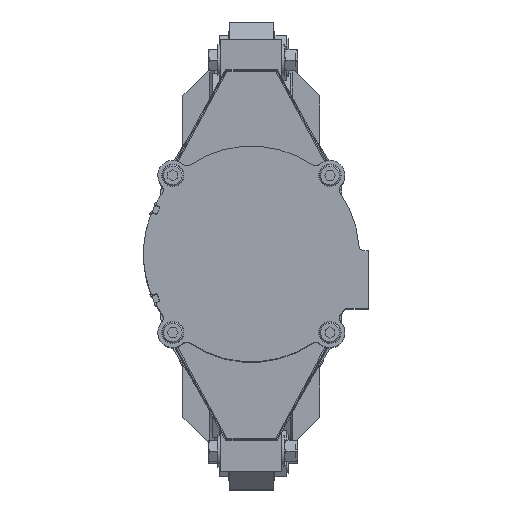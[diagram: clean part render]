
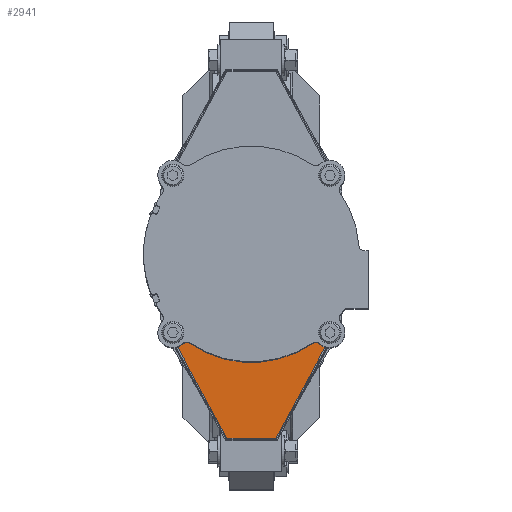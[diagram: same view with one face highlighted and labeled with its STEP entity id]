
A CAD part, top view. The second image highlights one B-rep face of the part: STEP entity #2941.
In plain terms, the highlighted planar face has unit normal (0, 0, 1).
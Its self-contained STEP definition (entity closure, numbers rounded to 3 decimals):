
#2941=ADVANCED_FACE('',(#9245),#9246,.F.);
#9245=FACE_OUTER_BOUND('',#16655,.T.);
#9246=PLANE('',#16656);
#16655=EDGE_LOOP('',(#38472,#38473,#38474,#38475,#38476,#38477));
#16656=AXIS2_PLACEMENT_3D('',#38478,#38479,#38480);
#38472=ORIENTED_EDGE('',*,*,#51636,.T.);
#38473=ORIENTED_EDGE('',*,*,#51640,.T.);
#38474=ORIENTED_EDGE('',*,*,#51641,.T.);
#38475=ORIENTED_EDGE('',*,*,#51642,.T.);
#38476=ORIENTED_EDGE('',*,*,#51643,.T.);
#38477=ORIENTED_EDGE('',*,*,#51644,.F.);
#38478=CARTESIAN_POINT('',(43.697,-106.973,600.75));
#38479=DIRECTION('',(0.,0.,-1.));
#38480=DIRECTION('',(0.,1.,0.));
#51636=EDGE_CURVE('',#63812,#63813,#63814,.T.);
#51640=EDGE_CURVE('',#63813,#63820,#63821,.T.);
#51641=EDGE_CURVE('',#63820,#63822,#63823,.T.);
#51642=EDGE_CURVE('',#63822,#63824,#63825,.T.);
#51643=EDGE_CURVE('',#63824,#63826,#63827,.T.);
#51644=EDGE_CURVE('',#63812,#63826,#63828,.T.);
#63812=VERTEX_POINT('',#92285);
#63813=VERTEX_POINT('',#92286);
#63814=LINE('',#92287,#92288);
#63820=VERTEX_POINT('',#92297);
#63821=LINE('',#92298,#92299);
#63822=VERTEX_POINT('',#92300);
#63823=LINE('',#92301,#92302);
#63824=VERTEX_POINT('',#92303);
#63825=LINE('',#92304,#92305);
#63826=VERTEX_POINT('',#92306);
#63827=LINE('',#92307,#92308);
#63828=LINE('',#92309,#92310);
#92285=CARTESIAN_POINT('',(-67.,-66.87,600.75));
#92286=CARTESIAN_POINT('',(-20.394,-152.948,600.75));
#92287=CARTESIAN_POINT('',(-37.373,-121.589,600.75));
#92288=VECTOR('',#106455,10.);
#92297=CARTESIAN_POINT('',(20.394,-152.948,600.75));
#92298=CARTESIAN_POINT('',(67.,-152.948,600.75));
#92299=VECTOR('',#106459,10.);
#92300=CARTESIAN_POINT('',(67.,-66.87,600.75));
#92301=CARTESIAN_POINT('',(47.279,-103.293,600.75));
#92302=VECTOR('',#106460,10.);
#92303=CARTESIAN_POINT('',(67.,-60.998,600.75));
#92304=CARTESIAN_POINT('',(67.,-60.998,600.75));
#92305=VECTOR('',#106461,10.);
#92306=CARTESIAN_POINT('',(-67.,-60.998,600.75));
#92307=CARTESIAN_POINT('',(20.394,-60.998,600.75));
#92308=VECTOR('',#106462,10.);
#92309=CARTESIAN_POINT('',(-67.,-60.998,600.75));
#92310=VECTOR('',#106463,10.);
#106455=DIRECTION('',(0.476,-0.879,0.));
#106459=DIRECTION('',(1.,0.,0.));
#106460=DIRECTION('',(0.476,0.879,0.));
#106461=DIRECTION('',(0.,1.,0.));
#106462=DIRECTION('',(-1.,0.,0.));
#106463=DIRECTION('',(0.,1.,0.));
